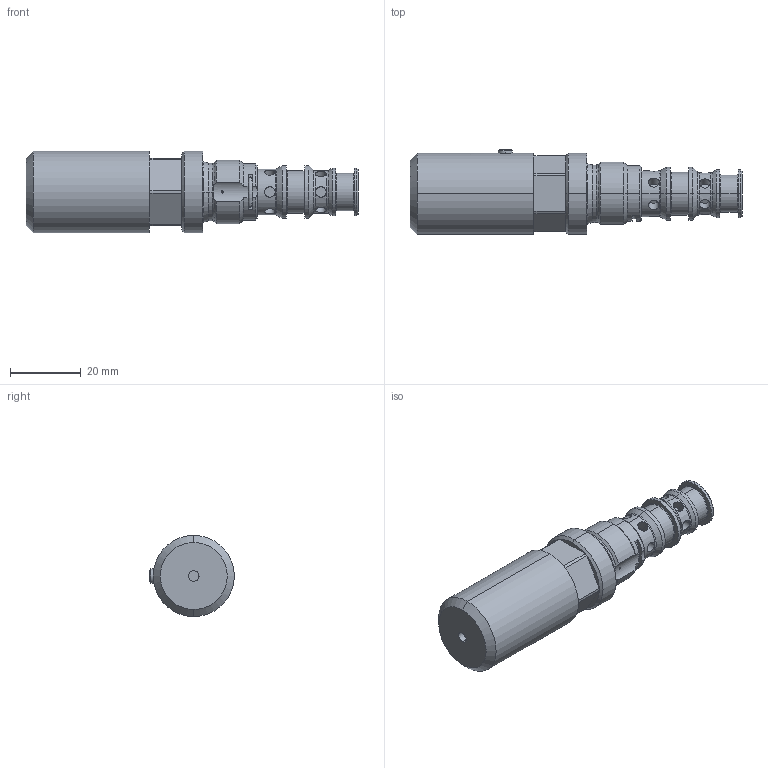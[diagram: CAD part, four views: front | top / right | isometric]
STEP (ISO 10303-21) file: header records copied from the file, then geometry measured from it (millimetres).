
FILE_DESCRIPTION (( 'STEP AP214' ), '1' );
FILE_NAME ('MVAPM18.STEP', '2021-08-27T08:04:12', ( '' ), ( '' ), 'SwSTEP 2.0', 'SolidWorks 2020', '' );
FILE_SCHEMA (( 'AUTOMOTIVE_DESIGN' ));
Length unit declared in the file: millimetre
Products named in the file (1): MVAPM18
Bounding box: 94.13 x 24 x 23 mm (x, y, z)
Volume: 26365.1 mm3; surface area: 7242.1 mm2
Topology: 1 solids, 1 shells, 192 faces, 429 edges, 261 vertices
Faces by surface type: cylinder 74, plane 63, cone 34, torus 21
Entity records: 8235 total; most frequent: CARTESIAN_POINT 1819, DIRECTION 940, ORIENTED_EDGE 854, EDGE_CURVE 427, AXIS2_PLACEMENT_3D 392, VERTEX_POINT 261, EDGE_LOOP 216, CIRCLE 199
